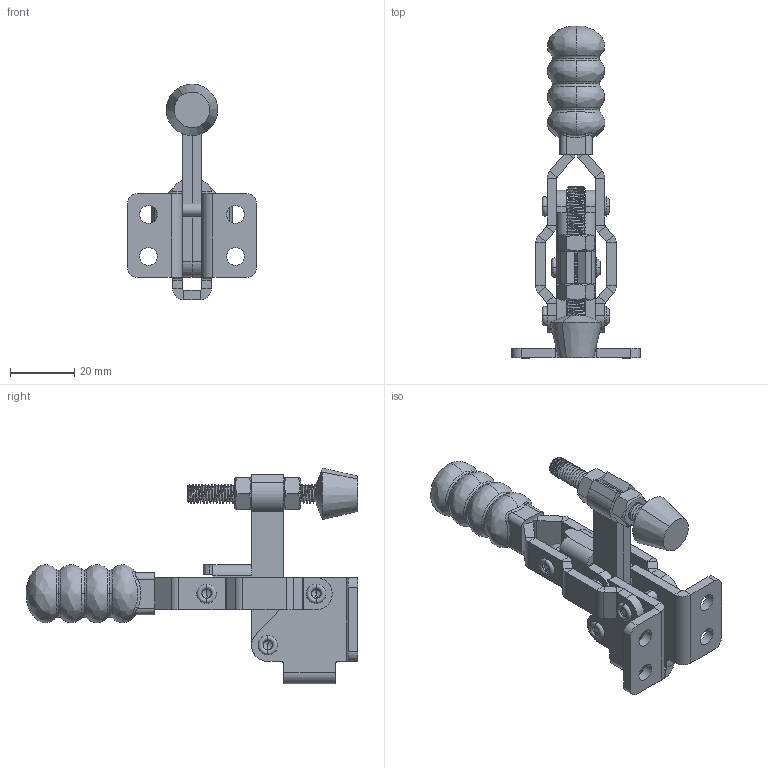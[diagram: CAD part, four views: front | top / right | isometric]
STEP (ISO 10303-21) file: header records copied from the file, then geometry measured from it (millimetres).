
FILE_DESCRIPTION (( 'STEP AP203' ), '1' );
FILE_NAME ('SK3-021H-6.STEP', '2018-11-01T08:25:56', ( 'admin' ), ( 'Microsoft' ), 'SwSTEP 2.0', 'SolidWorks 2015', '' );
FILE_SCHEMA (( 'CONFIG_CONTROL_DESIGN' ));
Length unit declared in the file: millimetre
Products named in the file (12): SK3-021H-6; SK3-021H-6蜇璃3; SK3-021H-6蜇璃4; SK3-021H-6蜇璃5; SK3-021H-6參忒; SK3-021H-6蜇璃6; SK3-021H-6蜇璃7; SK3-021H-6 蹟翐; SK3-021H-6蜇璃1; hex nuts, style 1-grades ab gb_GB_FASTENER_NUT_SNAB1 M6-N; SK3-021H-6蜇璃2
Assembly tree (14 placements, depth 2):
  SK3-021H-6
    SK3-021H-6
    SK3-021H-6蜇璃1
    SK3-021H-6蜇璃2
    SK3-021H-6蜇璃3
    SK3-021H-6蜇璃4
    SK3-021H-6蜇璃5
    SK3-021H-6參忒
    SK3-021H-6蜇璃6  x2
    SK3-021H-6蜇璃7  x2
    SK3-021H-6 蹟翐
    hex nuts, style 1-grades ab gb_GB_FASTENER_NUT_SNAB1 M6-N  x2
Bounding box: 40 x 103 x 66.99 mm (x, y, z)
Volume: 32321.7 mm3; surface area: 24680.8 mm2
Topology: 15 solids, 15 shells, 569 faces, 1333 edges, 792 vertices
Faces by surface type: plane 245, cylinder 238, cone 47, torus 20, bspline 19
Entity records: 22441 total; most frequent: CARTESIAN_POINT 9470, ORIENTED_EDGE 2454, DIRECTION 2434, EDGE_CURVE 1227, AXIS2_PLACEMENT_3D 899, VERTEX_POINT 734, LINE 636, VECTOR 636
